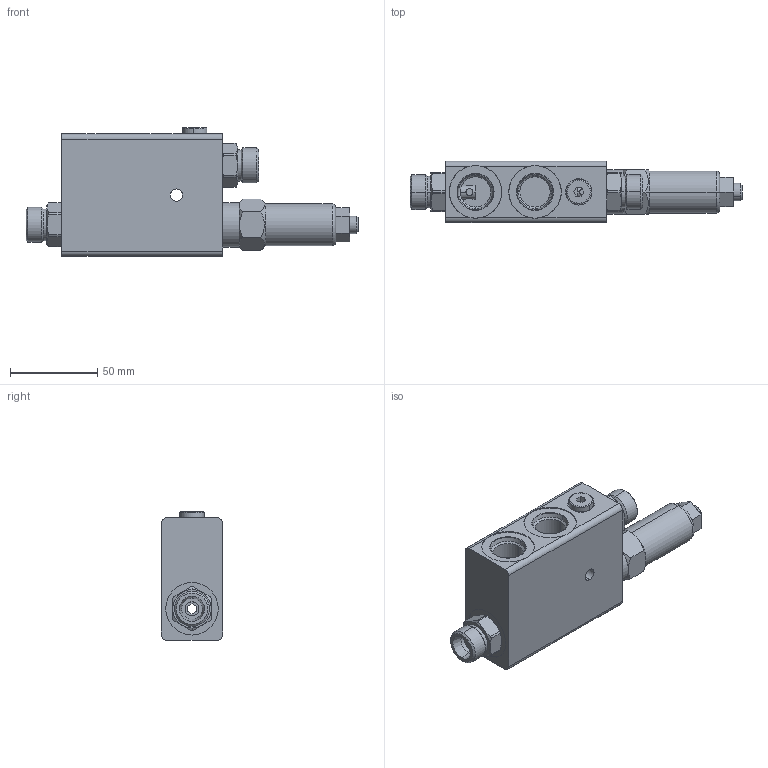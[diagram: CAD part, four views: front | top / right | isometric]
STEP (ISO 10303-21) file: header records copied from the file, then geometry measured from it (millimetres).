
FILE_DESCRIPTION (( 'STEP AP214' ), '1' );
FILE_NAME ('VCS34006.STEP', '2025-05-14T00:57:00', ( '' ), ( '' ), 'SwSTEP 2.0', 'SolidWorks 2023', '' );
FILE_SCHEMA (( 'AUTOMOTIVE_DESIGN' ));
Length unit declared in the file: millimetre
Products named in the file (1): VCS34006
Bounding box: 189.83 x 35 x 73.5 mm (x, y, z)
Surface area: 38364.1 mm2 (no closed solid volume)
Topology: 0 solids, 7 shells, 169 faces, 440 edges, 282 vertices
Faces by surface type: cylinder 60, plane 60, cone 37, torus 12
Entity records: 6058 total; most frequent: CARTESIAN_POINT 1900, DIRECTION 908, ORIENTED_EDGE 792, EDGE_CURVE 440, AXIS2_PLACEMENT_3D 362, VERTEX_POINT 282, EDGE_LOOP 195, CIRCLE 192
